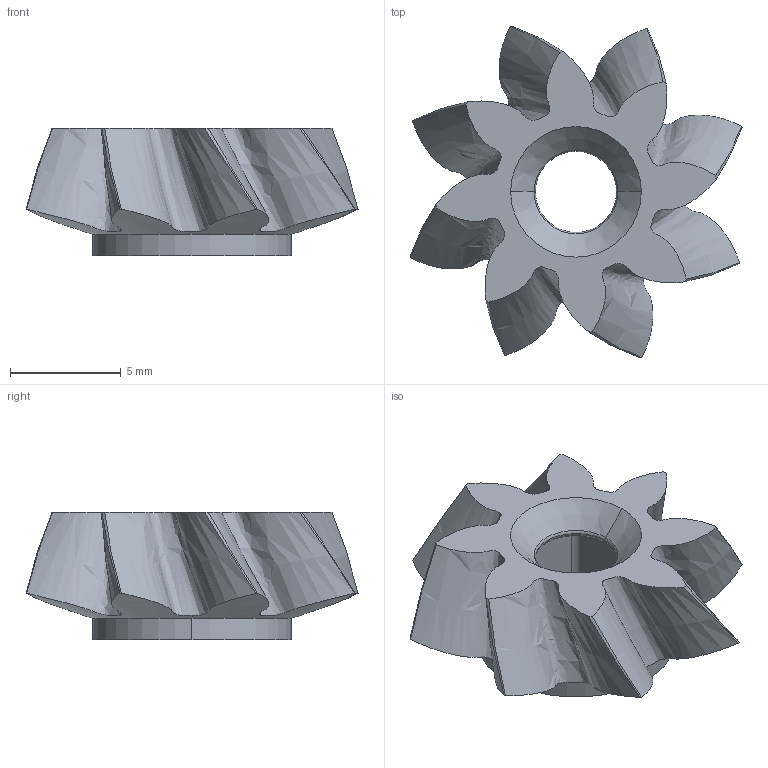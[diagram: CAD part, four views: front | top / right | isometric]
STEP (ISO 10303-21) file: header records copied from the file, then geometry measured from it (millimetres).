
FILE_DESCRIPTION (( 'STEP AP214' ), '1' );
FILE_NAME ('Ïèíü¸í 3.STEP', '2019-03-21T13:57:50', ( '' ), ( '' ), 'SwSTEP 2.0', 'SolidWorks 2018', '' );
FILE_SCHEMA (( 'AUTOMOTIVE_DESIGN' ));
Length unit declared in the file: millimetre
Products named in the file (1): 矧薤貲 3
Bounding box: 15 x 15 x 5.76 mm (x, y, z)
Volume: 403.7 mm3; surface area: 593.8 mm2
Topology: 1 solids, 1 shells, 45 faces, 112 edges, 66 vertices
Faces by surface type: cone 12, cylinder 10, bspline 8, plane 7, torus 4, sphere 4
Entity records: 5886 total; most frequent: CARTESIAN_POINT 4854, ORIENTED_EDGE 216, DIRECTION 198, EDGE_CURVE 108, AXIS2_PLACEMENT_3D 86, VERTEX_POINT 66, EDGE_LOOP 48, CIRCLE 48
